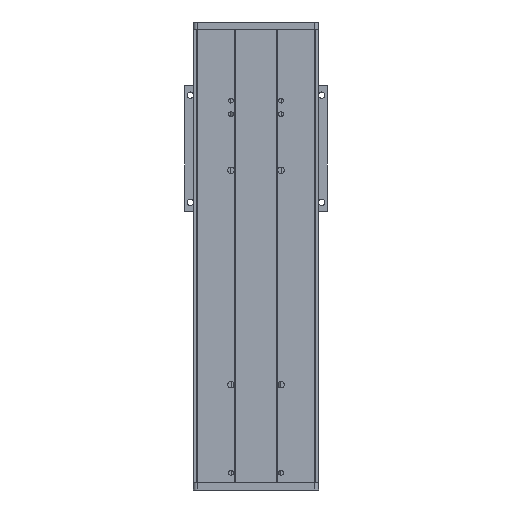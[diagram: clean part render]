
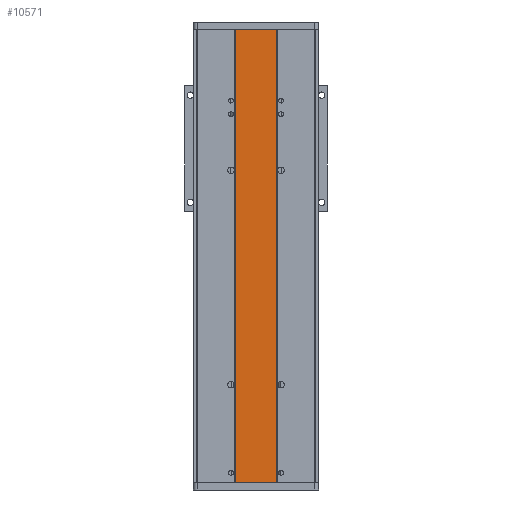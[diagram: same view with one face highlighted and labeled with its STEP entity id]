
A CAD part, front view. The second image highlights one B-rep face of the part: STEP entity #10571.
In plain terms, the highlighted planar face has unit normal (0, -1, 0).
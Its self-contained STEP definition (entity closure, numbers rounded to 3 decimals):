
#4932 = CARTESIAN_POINT ( 'NONE',  ( 1.27, -78.814, 1295. ) ) ;
#5595 = DIRECTION ( 'NONE',  ( 0., 0., -1. ) ) ;
#5994 = FACE_OUTER_BOUND ( 'NONE', #31028, .T. ) ;
#6523 = ORIENTED_EDGE ( 'NONE', *, *, #50959, .F. ) ;
#6737 = PLANE ( 'NONE',  #22425 ) ;
#9526 = CARTESIAN_POINT ( 'NONE',  ( 58.27, -78.814, 1295. ) ) ;
#10571 = ADVANCED_FACE ( 'NONE', ( #5994 ), #6737, .T. ) ;
#10661 = DIRECTION ( 'NONE',  ( 0., 0., -1. ) ) ;
#11833 = CARTESIAN_POINT ( 'NONE',  ( 58.27, -78.814, 635. ) ) ;
#13779 = ORIENTED_EDGE ( 'NONE', *, *, #19374, .T. ) ;
#15973 = LINE ( 'NONE', #9526, #25246 ) ;
#17733 = CARTESIAN_POINT ( 'NONE',  ( 0., -78.814, 635. ) ) ;
#19374 = EDGE_CURVE ( 'NONE', #42571, #40053, #20080, .T. ) ;
#20080 = LINE ( 'NONE', #45414, #40971 ) ;
#20127 = ORIENTED_EDGE ( 'NONE', *, *, #30104, .T. ) ;
#22425 = AXIS2_PLACEMENT_3D ( 'NONE', #49894, #34263, #10661 ) ;
#22853 = CARTESIAN_POINT ( 'NONE',  ( 1.27, -78.814, 0. ) ) ;
#24959 = CARTESIAN_POINT ( 'NONE',  ( 58.27, -78.814, 0. ) ) ;
#25246 = VECTOR ( 'NONE', #5595, 1000. ) ;
#25738 = LINE ( 'NONE', #4932, #26978 ) ;
#25867 = DIRECTION ( 'NONE',  ( 1., 0., 0. ) ) ;
#26978 = VECTOR ( 'NONE', #28534, 1000. ) ;
#28181 = VERTEX_POINT ( 'NONE', #34883 ) ;
#28534 = DIRECTION ( 'NONE',  ( 0., 0., -1. ) ) ;
#28585 = EDGE_CURVE ( 'NONE', #44680, #40053, #15973, .T. ) ;
#30104 = EDGE_CURVE ( 'NONE', #28181, #42571, #25738, .T. ) ;
#30706 = LINE ( 'NONE', #17733, #39881 ) ;
#31028 = EDGE_LOOP ( 'NONE', ( #20127, #13779, #41743, #6523 ) ) ;
#34263 = DIRECTION ( 'NONE',  ( 0., -1., 0. ) ) ;
#34883 = CARTESIAN_POINT ( 'NONE',  ( 1.27, -78.814, 635. ) ) ;
#39881 = VECTOR ( 'NONE', #49158, 1000. ) ;
#40053 = VERTEX_POINT ( 'NONE', #24959 ) ;
#40971 = VECTOR ( 'NONE', #25867, 1000. ) ;
#41743 = ORIENTED_EDGE ( 'NONE', *, *, #28585, .F. ) ;
#42571 = VERTEX_POINT ( 'NONE', #22853 ) ;
#44680 = VERTEX_POINT ( 'NONE', #11833 ) ;
#45414 = CARTESIAN_POINT ( 'NONE',  ( 0., -78.814, 0. ) ) ;
#49158 = DIRECTION ( 'NONE',  ( 1., 0., 0. ) ) ;
#49894 = CARTESIAN_POINT ( 'NONE',  ( 1.27, -78.814, 1295. ) ) ;
#50959 = EDGE_CURVE ( 'NONE', #28181, #44680, #30706, .T. ) ;
